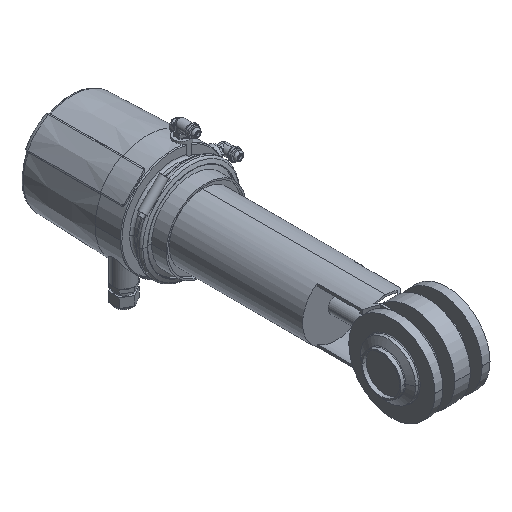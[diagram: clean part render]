
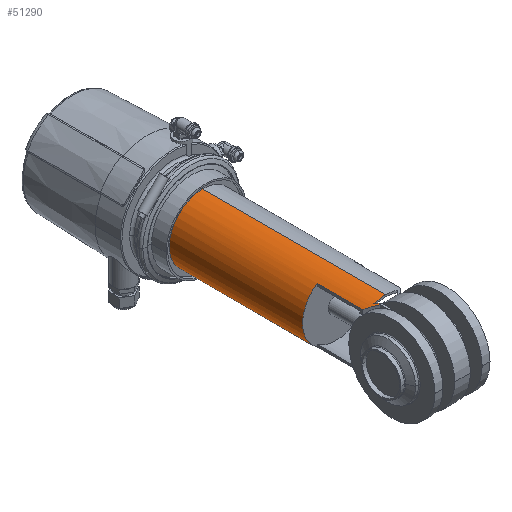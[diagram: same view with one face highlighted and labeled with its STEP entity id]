
A CAD part, isometric view. The second image highlights one B-rep face of the part: STEP entity #51290.
In plain terms, the highlighted cylindrical face has radius 42.5 mm (diameter 85 mm), a partial arc.
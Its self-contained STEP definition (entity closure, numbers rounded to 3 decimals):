
#8140=CARTESIAN_POINT('',(-314.804,26.456,
-41.307));
#8150=VERTEX_POINT('',#8140);
#23150=CARTESIAN_POINT('',(-314.804,96.459,
-41.307));
#23160=DIRECTION('',(0.,-1.,0.));
#23170=VECTOR('',#23160,1.);
#23180=LINE('',#23150,#23170);
#23190=CARTESIAN_POINT('',(-314.804,24.466,
-41.307));
#23200=VERTEX_POINT('',#23190);
#23210=EDGE_CURVE('',#8150,#23200,#23180,.T.);
#28580=CARTESIAN_POINT('',(-328.804,96.459,
-35.075));
#28590=VERTEX_POINT('',#28580);
#28620=CARTESIAN_POINT('',(-304.804,96.459,
0.));
#28630=DIRECTION('',(0.,-1.,0.));
#28640=DIRECTION('',(0.,0.,1.));
#28650=AXIS2_PLACEMENT_3D('',#28620,#28630,#28640);
#28660=CIRCLE('',#28650,42.5);
#28670=CARTESIAN_POINT('',(-328.804,96.459,
35.075));
#28680=VERTEX_POINT('',#28670);
#28690=EDGE_CURVE('',#28680,#28590,#28660,.T.);
#34180=CARTESIAN_POINT('',(-317.304,30.501,
40.62));
#34190=VERTEX_POINT('',#34180);
#34220=CARTESIAN_POINT('',(-304.804,18.001,
0.));
#34230=DIRECTION('',(0.707,0.707,0.));
#34240=DIRECTION('',(-0.707,0.707,0.));
#34250=AXIS2_PLACEMENT_3D('',#34220,#34230,#34240);
#34260=ELLIPSE('',#34250,60.104,42.5);
#34270=CARTESIAN_POINT('',(-319.862,33.059,
39.743));
#34280=VERTEX_POINT('',#34270);
#34290=EDGE_CURVE('',#34280,#34190,#34260,.T.);
#35370=CARTESIAN_POINT('',(-328.804,38.466,
35.075));
#35380=VERTEX_POINT('',#35370);
#35700=CARTESIAN_POINT('',(-328.804,293.32,
35.075));
#35710=DIRECTION('',(0.,-1.,0.));
#35720=VECTOR('',#35710,1.);
#35730=LINE('',#35700,#35720);
#35740=EDGE_CURVE('',#28680,#35380,#35730,.T.);
#36170=CARTESIAN_POINT('',(-304.804,96.459,-42.5));
#36180=DIRECTION('',(0.,-1.,0.));
#36190=VECTOR('',#36180,1.);
#36200=LINE('',#36170,#36190);
#36210=CARTESIAN_POINT('',(-304.804,266.459,-42.5));
#36220=VERTEX_POINT('',#36210);
#36230=CARTESIAN_POINT('',(-304.804,33.059,-42.5));
#36240=VERTEX_POINT('',#36230);
#36250=EDGE_CURVE('',#36220,#36240,#36200,.T.);
#36270=CARTESIAN_POINT('',(-304.804,33.059,
0.));
#36280=DIRECTION('',(0.,-1.,0.));
#36290=DIRECTION('',(0.,0.,-1.));
#36300=AXIS2_PLACEMENT_3D('',#36270,#36280,#36290);
#36310=CIRCLE('',#36300,42.5);
#36870=CARTESIAN_POINT('',(-304.804,33.059,
0.));
#36880=DIRECTION('',(0.,-1.,0.));
#36890=DIRECTION('',(0.,0.,1.));
#36900=AXIS2_PLACEMENT_3D('',#36870,#36880,#36890);
#36910=CIRCLE('',#36900,42.5);
#36920=CARTESIAN_POINT('',(-304.804,33.059,42.5));
#36930=VERTEX_POINT('',#36920);
#36960=CARTESIAN_POINT('',(-304.804,96.459,42.5));
#36970=DIRECTION('',(0.,-1.,0.));
#36980=VECTOR('',#36970,1.);
#36990=LINE('',#36960,#36980);
#37000=CARTESIAN_POINT('',(-304.804,266.459,42.5));
#37010=VERTEX_POINT('',#37000);
#37020=EDGE_CURVE('',#37010,#36930,#36990,.T.);
#37040=CARTESIAN_POINT('',(-304.804,266.459,
0.));
#37050=DIRECTION('',(0.,-1.,0.));
#37060=DIRECTION('',(0.,0.,-1.));
#37070=AXIS2_PLACEMENT_3D('',#37040,#37050,#37060);
#37080=CIRCLE('',#37070,42.5);
#37190=EDGE_CURVE('',#37010,#36220,#37080,.T.);
#37340=CARTESIAN_POINT('',(-314.804,28.001,
-41.307));
#37350=VERTEX_POINT('',#37340);
#37380=CARTESIAN_POINT('',(-314.804,293.32,
-41.307));
#37390=DIRECTION('',(0.,-1.,0.));
#37400=VECTOR('',#37390,1.);
#37410=LINE('',#37380,#37400);
#37420=EDGE_CURVE('',#37350,#8150,#37410,.T.);
#37740=CARTESIAN_POINT('',(-319.862,33.059,
-39.743));
#37750=VERTEX_POINT('',#37740);
#37780=CARTESIAN_POINT('',(-304.804,18.001,
0.));
#37790=DIRECTION('',(0.707,0.707,0.));
#37800=DIRECTION('',(0.707,-0.707,0.));
#37810=AXIS2_PLACEMENT_3D('',#37780,#37790,#37800);
#37820=ELLIPSE('',#37810,60.104,42.5);
#37830=EDGE_CURVE('',#37350,#37750,#37820,.T.);
#38950=EDGE_CURVE('',#37750,#36240,#36310,.T.);
#40160=EDGE_CURVE('',#36930,#34280,#36910,.T.);
#40760=CARTESIAN_POINT('',(-304.804,14.466,
0.));
#40770=DIRECTION('',(-0.707,-0.707,0.));
#40780=DIRECTION('',(0.707,-0.707,0.));
#40790=AXIS2_PLACEMENT_3D('',#40760,#40770,#40780);
#40800=ELLIPSE('',#40790,60.104,42.5);
#40810=CARTESIAN_POINT('',(-317.304,26.966,
40.62));
#40820=VERTEX_POINT('',#40810);
#40830=EDGE_CURVE('',#40820,#35380,#40800,.T.);
#41010=CARTESIAN_POINT('',(-317.304,293.32,
40.62));
#41020=DIRECTION('',(0.,-1.,0.));
#41030=VECTOR('',#41020,1.);
#41040=LINE('',#41010,#41030);
#43080=CARTESIAN_POINT('',(-315.452,25.113,
-41.145));
#43090=VERTEX_POINT('',#43080);
#43130=CARTESIAN_POINT('',(-304.804,14.466,
0.));
#43140=DIRECTION('',(-0.707,-0.707,0.));
#43150=DIRECTION('',(-0.707,0.707,0.));
#43160=AXIS2_PLACEMENT_3D('',#43130,#43140,#43150);
#43170=ELLIPSE('',#43160,60.104,42.5);
#43180=EDGE_CURVE('',#43090,#23200,#43170,.T.);
#43280=CARTESIAN_POINT('',(-304.804,-336.008,
0.));
#43290=DIRECTION('',(0.,-0.113,-0.994));
#43300=DIRECTION('',(0.,0.994,-0.113));
#43310=AXIS2_PLACEMENT_3D('',#43280,#43290,#43300);
#43320=ELLIPSE('',#43310,375.431,42.5);
#43330=CARTESIAN_POINT('',(-317.304,20.51,
-40.62));
#43340=VERTEX_POINT('',#43330);
#43350=EDGE_CURVE('',#43340,#43090,#43320,.T.);
#43710=CARTESIAN_POINT('',(-317.304,293.32,
-40.62));
#43720=DIRECTION('',(0.,-1.,0.));
#43730=VECTOR('',#43720,1.);
#43740=LINE('',#43710,#43730);
#43750=CARTESIAN_POINT('',(-317.304,26.966,
-40.62));
#43760=VERTEX_POINT('',#43750);
#43770=EDGE_CURVE('',#43760,#43340,#43740,.T.);
#45900=EDGE_CURVE('',#34190,#40820,#41040,.T.);
#46010=CARTESIAN_POINT('',(-328.804,293.32,
-35.075));
#46020=DIRECTION('',(0.,-1.,0.));
#46030=VECTOR('',#46020,1.);
#46040=LINE('',#46010,#46030);
#46050=CARTESIAN_POINT('',(-328.804,38.466,
-35.075));
#46060=VERTEX_POINT('',#46050);
#46070=EDGE_CURVE('',#28590,#46060,#46040,.T.);
#46550=CARTESIAN_POINT('',(-304.804,14.466,
0.));
#46560=DIRECTION('',(0.707,0.707,0.));
#46570=DIRECTION('',(0.707,-0.707,0.));
#46580=AXIS2_PLACEMENT_3D('',#46550,#46560,#46570);
#46590=ELLIPSE('',#46580,60.104,42.5);
#46600=EDGE_CURVE('',#43760,#46060,#46590,.T.);
#51040=CARTESIAN_POINT('',(-304.804,96.459,
0.));
#51050=DIRECTION('',(0.,-1.,0.));
#51060=DIRECTION('',(0.,0.,-1.));
#51070=AXIS2_PLACEMENT_3D('',#51040,#51050,#51060);
#51080=CYLINDRICAL_SURFACE('',#51070,42.5);
#51090=ORIENTED_EDGE('',*,*,#37190,.T.);
#51100=ORIENTED_EDGE('',*,*,#37020,.F.);
#51110=ORIENTED_EDGE('',*,*,#40160,.F.);
#51120=ORIENTED_EDGE('',*,*,#34290,.F.);
#51130=ORIENTED_EDGE('',*,*,#45900,.F.);
#51140=ORIENTED_EDGE('',*,*,#40830,.F.);
#51150=ORIENTED_EDGE('',*,*,#35740,.T.);
#51160=ORIENTED_EDGE('',*,*,#28690,.F.);
#51170=ORIENTED_EDGE('',*,*,#46070,.F.);
#51180=ORIENTED_EDGE('',*,*,#46600,.T.);
#51190=ORIENTED_EDGE('',*,*,#43770,.F.);
#51200=ORIENTED_EDGE('',*,*,#43350,.F.);
#51210=ORIENTED_EDGE('',*,*,#43180,.F.);
#51220=ORIENTED_EDGE('',*,*,#23210,.T.);
#51230=ORIENTED_EDGE('',*,*,#37420,.T.);
#51240=ORIENTED_EDGE('',*,*,#37830,.F.);
#51250=ORIENTED_EDGE('',*,*,#38950,.F.);
#51260=ORIENTED_EDGE('',*,*,#36250,.T.);
#51270=EDGE_LOOP('',(#51260,#51250,#51240,#51230,#51220,#51210,#51200,
#51190,#51180,#51170,#51160,#51150,#51140,#51130,#51120,#51110,#51100,
#51090));
#51280=FACE_OUTER_BOUND('',#51270,.T.);
#51290=ADVANCED_FACE('',(#51280),#51080,.T.);
